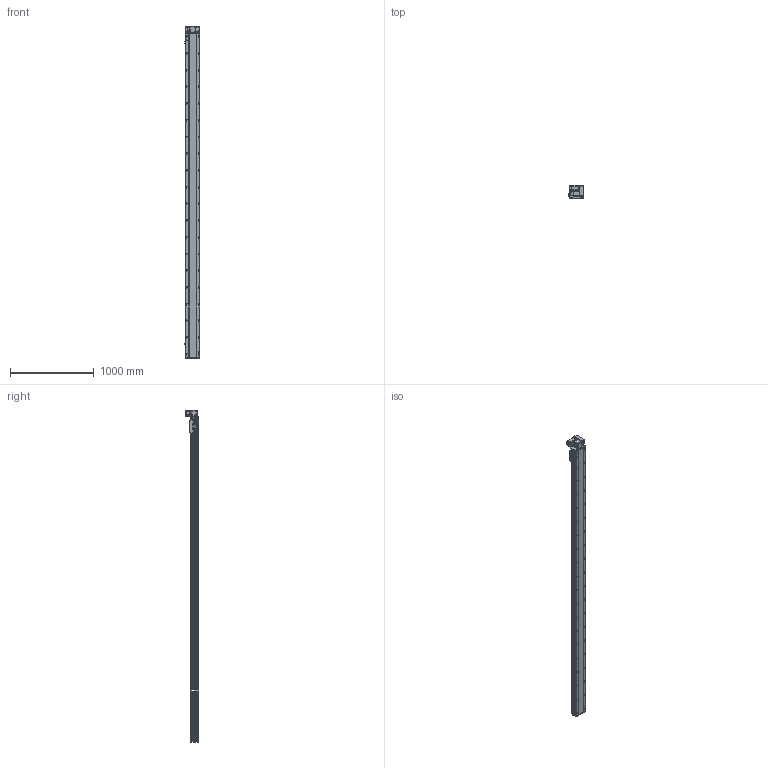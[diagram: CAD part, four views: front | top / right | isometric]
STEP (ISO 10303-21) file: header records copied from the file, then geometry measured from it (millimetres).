
FILE_DESCRIPTION (( 'STEP AP214' ), '1' );
FILE_NAME ('RTB17S-XX-3600-RW-M40-C4.STEP', '2025-12-11T09:22:09', ( '' ), ( '' ), 'SwSTEP 2.0', 'SolidWorks 2018', '' );
FILE_SCHEMA (( 'AUTOMOTIVE_DESIGN' ));
Length unit declared in the file: millimetre
Products named in the file (14): RTB14-L-018P^RTB17S-RW-々湍釱蚾饜-400W_RTB17S-XX-XX-RW-M40-C4; RTB17S-L-004佪裝蹟譫蟀諉釱^RTB17S-XX-XX-RW-M40-C4; RTB17S-L-007奻裔^RTB17S-XX-XX-RW-M40-C4; RMP17S-L-014-T20--々湍釱^RTB17S-RW-々湍釱蚾饜-400W_RTB17S-XX-XX-RW-M40-C4; RTB14-L-008-M20--萇儂啣^RTB17S-RW-々湍釱蚾饜-400W_RTB17S-XX-XX-RW-M40-C4; RTB17-R-011菁釱^RTB17S-XX-XX-RW-M40-C4; OMRON EE-SX672 传感器^RTB17S-XX-XX-RW-M40-C4; RTB17S-XX-3600-RW-M40-C4; RTB14-L-005P--轴承塑胶压盖^RTB17S-RW-皮带座装配-400W_RTB17S-XX-XX-RW-M40-C4; 400W侜督萇儂^RTB17S-XX-XX-RW-M40-C4; RTB17S-RW-々湍釱蚾饜-400W^RTB17S-XX-XX-RW-M40-C4; RTH13-BL-012覜茼え俋离^RTB17S-XX-XX-RW-M40-C4; RTB14-L-017P^RTB17S-RW-々湍釱蚾饜-400W_RTB17S-XX-XX-RW-M40-C4; RTB17S-L-001耜醱啣^RTB17S-XX-XX-RW-M40-C4
Assembly tree (16 placements, depth 3):
  RTB17S-XX-3600-RW-M40-C4
    RTB17-R-011菁釱^RTB17S-XX-XX-RW-M40-C4
    RTB17S-L-007奻裔^RTB17S-XX-XX-RW-M40-C4
    OMRON EE-SX672 传感器^RTB17S-XX-XX-RW-M40-C4  x3
    RTB17S-L-001耜醱啣^RTB17S-XX-XX-RW-M40-C4
    400W侜督萇儂^RTB17S-XX-XX-RW-M40-C4
    RTB17S-L-004佪裝蹟譫蟀諉釱^RTB17S-XX-XX-RW-M40-C4
    RTH13-BL-012覜茼え俋离^RTB17S-XX-XX-RW-M40-C4
    RTB17S-RW-々湍釱蚾饜-400W^RTB17S-XX-XX-RW-M40-C4
      RMP17S-L-014-T20--々湍釱^RTB17S-RW-々湍釱蚾饜-400W_RTB17S-XX-XX-RW-M40-C4
      RTB14-L-005P--轴承塑胶压盖^RTB17S-RW-皮带座装配-400W_RTB17S-XX-XX-RW-M40-C4
      RTB14-L-008-M20--萇儂啣^RTB17S-RW-々湍釱蚾饜-400W_RTB17S-XX-XX-RW-M40-C4
      RTB14-L-017P^RTB17S-RW-々湍釱蚾饜-400W_RTB17S-XX-XX-RW-M40-C4  x2
      RTB14-L-018P^RTB17S-RW-々湍釱蚾饜-400W_RTB17S-XX-XX-RW-M40-C4
Bounding box: 183.5 x 160.5 x 3972.5 mm (x, y, z)
Volume: 33579738.6 mm3; surface area: 3809323.1 mm2
Topology: 15 solids, 15 shells, 2413 faces, 6789 edges, 4437 vertices
Faces by surface type: plane 1094, cylinder 871, bspline 301, cone 139, torus 8
Entity records: 72617 total; most frequent: CARTESIAN_POINT 20794, ORIENTED_EDGE 10422, DIRECTION 9566, EDGE_CURVE 5211, VERTEX_POINT 3425, AXIS2_PLACEMENT_3D 3355, VECTOR 2856, LINE 2856
